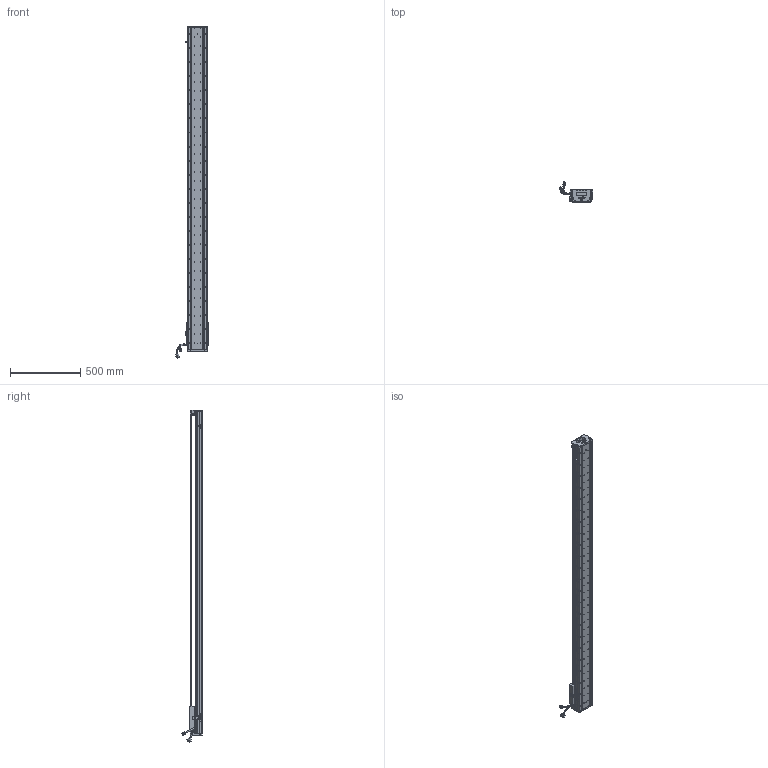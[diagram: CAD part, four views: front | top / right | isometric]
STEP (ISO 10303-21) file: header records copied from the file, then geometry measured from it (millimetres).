
FILE_DESCRIPTION (( 'STEP AP203' ), '1' );
FILE_NAME ('Z2-RY140D-1-L500-B-K.SLDASM_2050.step', '2021-05-17T07:48:24', ( '盈信电脑' ), ( '东莞市道滘镇水果街19号' ), 'SwSTEP 2.0', 'SolidWorks 2016', '' );
FILE_SCHEMA (( 'CONFIG_CONTROL_DESIGN' ));
Length unit declared in the file: millimetre
Products named in the file (36): HARNESS-Part-2; 140-Z-臏賑輸盄裔(21遴); HOLDER0; 140雄赽晤鎢ん堤盄; 覜茼ん672; SCREW-M1.7; Z2-RY140-L500詩湍100mm遵_2050; 140蚥薯蝶輸; Z2-RY140圉猾敕臏賑輸(21遴); HARNESS-Part-1; Z2-RY140D-1-L500-B-K.SLDASM_2050; SCREW-M1.6-3; SCREW-M1.6; COVER; Z-RY140詩湍狟揤裔; SHIELDPLATE; HARNESS; SEAL; SEAL-Part-1; LABEL-Part-1; SCALE-Part-1; 榋妏寠巭燃_暯_M2_2; SCALE; PBU_SHEET; COVER-Part-1; SCREW-M1.6-2; LABEL; 080黍杅芛假蚾釱21遴; PSLH080_PSLF2; SCALE-Part-2; Z-140詩湍傷裔啣; SCREW-M1.6-1; Z-RY140感应器672光电感应片; SCREW-M1.7-1; Z2-RY140-L500直线电机模组底座_2050; Z-RY140詩湍奻揤裔
Assembly tree (41 placements, depth 4):
  Z2-RY140D-1-L500-B-K.SLDASM_2050
    Z2-RY140-L500直线电机模组底座_2050
    Z-RY140感应器672光电感应片
    Z2-RY140圉猾敕臏賑輸(21遴)
    覜茼ん672  x3
    Z2-RY140-L500詩湍100mm遵_2050
    PSLH080_PSLF2
      SCALE
        SCALE-Part-1
        SCALE-Part-2
      HARNESS
        HARNESS-Part-1
        HARNESS-Part-2
      LABEL
        LABEL-Part-1
      COVER
        COVER-Part-1
      SEAL
        SEAL-Part-1
      榋妏寠巭燃_暯_M2_2
      SHIELDPLATE
      SCREW-M1.7
      SCREW-M1.7-1
      PBU_SHEET
      SCREW-M1.6
      SCREW-M1.6-1
      SCREW-M1.6-2
      SCREW-M1.6-3
      HOLDER0
    080黍杅芛假蚾釱21遴
    140-Z-臏賑輸盄裔(21遴)
    Z-140詩湍傷裔啣  x2
    Z-RY140詩湍狟揤裔  x2
    Z-RY140詩湍奻揤裔  x2
    140蚥薯蝶輸  x2
    140雄赽晤鎢ん堤盄
Bounding box: 239.84 x 143.77 x 2360.87 mm (x, y, z)
Volume: 7490554 mm3; surface area: 1969586.6 mm2
Topology: 36 solids, 36 shells, 3890 faces, 10542 edges, 6679 vertices
Faces by surface type: cylinder 2062, plane 1326, cone 370, torus 79, bspline 53
Entity records: 122278 total; most frequent: CARTESIAN_POINT 34203, ORIENTED_EDGE 18052, DIRECTION 16842, EDGE_CURVE 9026, AXIS2_PLACEMENT_3D 6254, VERTEX_POINT 5847, VECTOR 4334, LINE 4334
